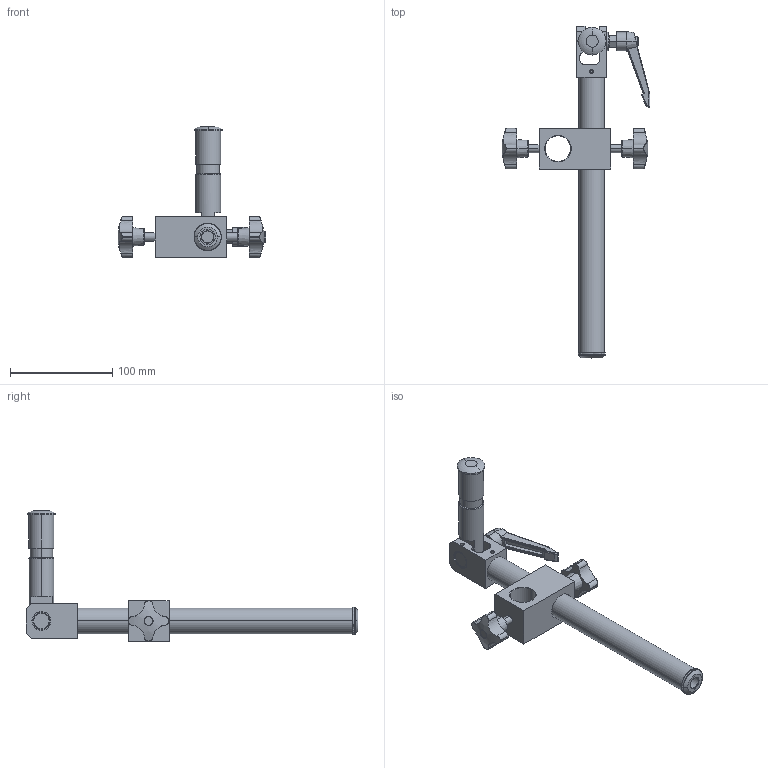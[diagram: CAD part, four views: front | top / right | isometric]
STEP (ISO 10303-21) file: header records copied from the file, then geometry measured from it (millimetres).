
FILE_DESCRIPTION(('STEP AP214'),'1');
FILE_NAME('TG-3D3.stp','2022-09-28T02:11:11',(' '),(' '),'Spatial InterOp 3D',' ',' ');
FILE_SCHEMA(('AUTOMOTIVE_DESIGN { 1 0 10303 214 1 1 1 1 }'));
Length unit declared in the file: metre
Products named in the file (3): TG-3D3; Component1; Component2
Assembly tree (2 placements, depth 2):
  TG-3D3
    Component1
    Component2
Bounding box: 144.64 x 324.9 x 128 mm (x, y, z)
Volume: 243693 mm3; surface area: 96018.6 mm2
Topology: 4 solids, 6 shells, 853 faces, 2005 edges, 1209 vertices
Faces by surface type: plane 524, cylinder 245, cone 48, torus 14, bspline 12, sphere 10
Entity records: 25524 total; most frequent: CARTESIAN_POINT 5544, DIRECTION 4357, ORIENTED_EDGE 4010, EDGE_CURVE 2005, AXIS2_PLACEMENT_3D 1582, VERTEX_POINT 1209, LINE 1193, VECTOR 1193
